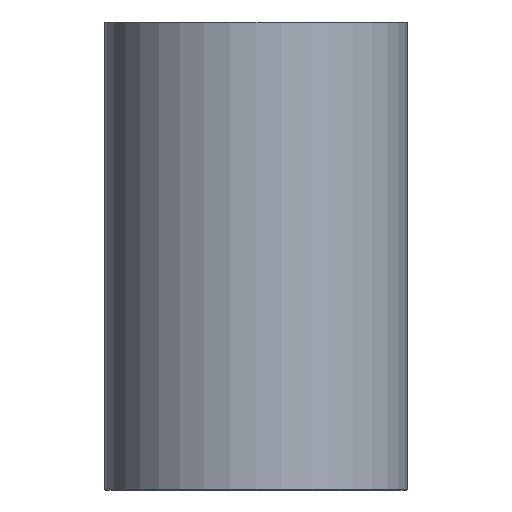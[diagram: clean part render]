
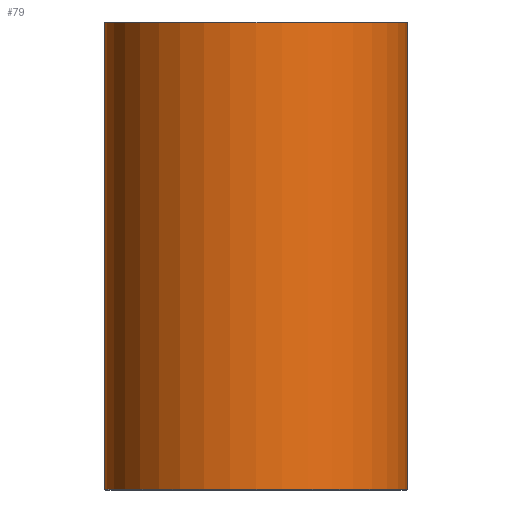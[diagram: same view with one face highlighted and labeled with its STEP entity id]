
A CAD part, front view. The second image highlights one B-rep face of the part: STEP entity #79.
In plain terms, the highlighted cylindrical face has radius 34 mm (diameter 68 mm), a full revolution.
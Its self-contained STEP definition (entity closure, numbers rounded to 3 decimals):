
#79=ADVANCED_FACE('',(#96,#97),#98,.T.);
#96=FACE_OUTER_BOUND('',#120,.T.);
#97=FACE_OUTER_BOUND('',#121,.T.);
#98=CYLINDRICAL_SURFACE('',#122,34.0);
#120=EDGE_LOOP('',(#152));
#121=EDGE_LOOP('',(#153));
#122=AXIS2_PLACEMENT_3D('',#154,#155,#156);
#152=ORIENTED_EDGE('',*,*,#178,.T.);
#153=ORIENTED_EDGE('',*,*,#177,.T.);
#154=CARTESIAN_POINT('',(0.0,0.0,105.0));
#155=DIRECTION('',(0.0,0.0,-1.0));
#156=DIRECTION('',(-1.0,0.0,0.0));
#177=EDGE_CURVE('',#190,#190,#191,.T.);
#178=EDGE_CURVE('',#192,#192,#193,.F.);
#190=VERTEX_POINT('',#206);
#191=CIRCLE('',#207,34.0);
#192=VERTEX_POINT('',#208);
#193=CIRCLE('',#209,34.0);
#206=CARTESIAN_POINT('',(34.0,0.0,0.2));
#207=AXIS2_PLACEMENT_3D('',#227,#228,#229);
#208=CARTESIAN_POINT('',(34.0,0.,104.8));
#209=AXIS2_PLACEMENT_3D('',#230,#231,#232);
#227=CARTESIAN_POINT('',(0.0,0.0,0.2));
#228=DIRECTION('',(0.0,0.0,1.0));
#229=DIRECTION('',(1.0,0.0,0.0));
#230=CARTESIAN_POINT('',(0.0,0.0,104.8));
#231=DIRECTION('',(0.0,0.0,1.0));
#232=DIRECTION('',(1.0,0.0,0.0));
